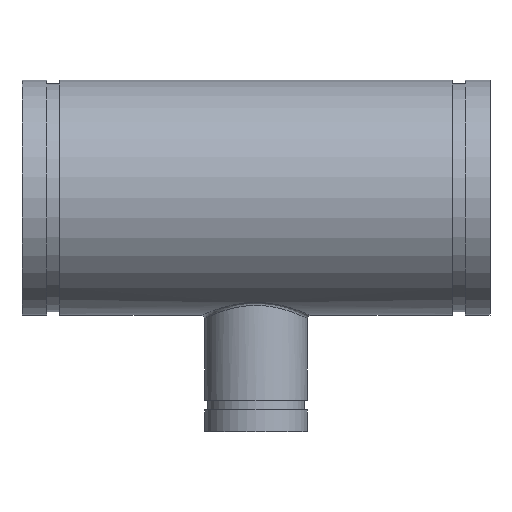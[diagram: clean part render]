
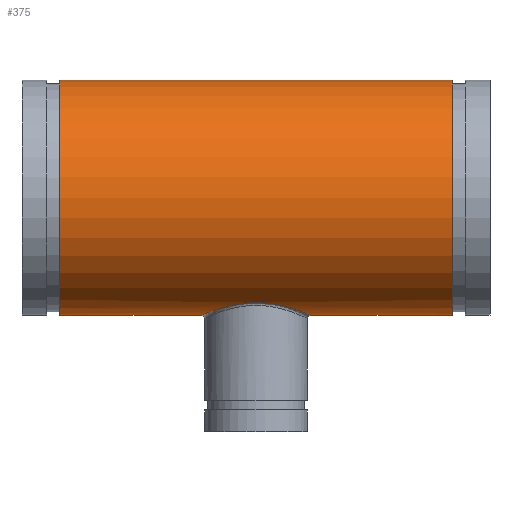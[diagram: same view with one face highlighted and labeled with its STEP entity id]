
A CAD part, top view. The second image highlights one B-rep face of the part: STEP entity #375.
In plain terms, the highlighted cylindrical face has radius 114.935 mm (diameter 229.87 mm), a full revolution.
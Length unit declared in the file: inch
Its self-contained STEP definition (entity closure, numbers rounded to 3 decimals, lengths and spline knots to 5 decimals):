
#54=FACE_BOUND('',#119,.T.);
#65=LINE('',#784,#76);
#76=VECTOR('',#483,4.525);
#87=CYLINDRICAL_SURFACE('',#415,4.525);
#98=FACE_OUTER_BOUND('',#118,.T.);
#118=EDGE_LOOP('',(#266,#267,#268,#269));
#119=EDGE_LOOP('',(#270));
#150=B_SPLINE_CURVE_WITH_KNOTS('',3,(#757,#758,#759,#760,#761,#762,#763,
#764,#765,#766,#767,#768,#769,#770,#771,#772,#773,#774,#775,#776,#777,#778,
#779),.UNSPECIFIED.,.T.,.F.,(4,1,1,1,1,1,1,1,1,1,1,1,1,1,1,1,1,1,1,1,4),
(-30.76947,-29.67056,-28.57165,-26.37383,
-24.90862,-23.44341,-21.97819,-19.78038,
-19.04777,-17.58256,-16.11734,-14.65213,
-13.18692,-10.25649,-8.79128,-7.32606,
-5.86085,-4.39564,-2.19782,-1.09891,
0.),.UNSPECIFIED.);
#154=CIRCLE('',#416,4.525);
#155=CIRCLE('',#417,4.525);
#182=VERTEX_POINT('',#726);
#185=VERTEX_POINT('',#781);
#186=VERTEX_POINT('',#783);
#219=EDGE_CURVE('',#182,#182,#150,.T.);
#220=EDGE_CURVE('',#185,#185,#154,.T.);
#221=EDGE_CURVE('',#185,#186,#65,.T.);
#222=EDGE_CURVE('',#186,#186,#155,.T.);
#266=ORIENTED_EDGE('',*,*,#220,.T.);
#267=ORIENTED_EDGE('',*,*,#221,.T.);
#268=ORIENTED_EDGE('',*,*,#222,.T.);
#269=ORIENTED_EDGE('',*,*,#221,.F.);
#270=ORIENTED_EDGE('',*,*,#219,.F.);
#375=ADVANCED_FACE('',(#98,#54),#87,.T.);
#415=AXIS2_PLACEMENT_3D('',#780,#479,#480);
#416=AXIS2_PLACEMENT_3D('',#782,#481,#482);
#417=AXIS2_PLACEMENT_3D('',#785,#484,#485);
#479=DIRECTION('center_axis',(-1.,0.,0.));
#480=DIRECTION('ref_axis',(0.,-1.,0.));
#481=DIRECTION('center_axis',(1.,0.,0.));
#482=DIRECTION('ref_axis',(0.,-1.,0.));
#483=DIRECTION('',(1.,0.,0.));
#484=DIRECTION('center_axis',(-1.,0.,0.));
#485=DIRECTION('ref_axis',(0.,-1.,0.));
#726=CARTESIAN_POINT('',(0.,-4.0348,-2.04841));
#757=CARTESIAN_POINT('Ctrl Pts',(0.,-4.0348,
-2.04841));
#758=CARTESIAN_POINT('Ctrl Pts',(0.15968,-4.0348,-2.04841));
#759=CARTESIAN_POINT('Ctrl Pts',(0.47891,-4.05315,-2.01279));
#760=CARTESIAN_POINT('Ctrl Pts',(1.0776,-4.15306,-1.80593));
#761=CARTESIAN_POINT('Ctrl Pts',(1.61349,-4.32247,-1.38834));
#762=CARTESIAN_POINT('Ctrl Pts',(1.98545,-4.47214,-0.76843));
#763=CARTESIAN_POINT('Ctrl Pts',(2.13164,-4.53684,-0.15839));
#764=CARTESIAN_POINT('Ctrl Pts',(2.07388,-4.51109,0.57514));
#765=CARTESIAN_POINT('Ctrl Pts',(1.79047,-4.38957,1.13765));
#766=CARTESIAN_POINT('Ctrl Pts',(1.36621,-4.2443,1.58085));
#767=CARTESIAN_POINT('Ctrl Pts',(0.93473,-4.12431,1.86939));
#768=CARTESIAN_POINT('Ctrl Pts',(0.32416,-4.0311,2.05607));
#769=CARTESIAN_POINT('Ctrl Pts',(-0.32418,-4.03083,2.05612));
#770=CARTESIAN_POINT('Ctrl Pts',(-1.13827,-4.15587,1.80715));
#771=CARTESIAN_POINT('Ctrl Pts',(-1.76672,-4.38023,1.23927));
#772=CARTESIAN_POINT('Ctrl Pts',(-2.08213,-4.51445,0.46994));
#773=CARTESIAN_POINT('Ctrl Pts',(-2.13159,-4.53695,-0.15817));
#774=CARTESIAN_POINT('Ctrl Pts',(-1.98547,-4.47209,-0.76857));
#775=CARTESIAN_POINT('Ctrl Pts',(-1.61348,-4.32251,-1.38824));
#776=CARTESIAN_POINT('Ctrl Pts',(-1.0776,-4.15304,-1.80598));
#777=CARTESIAN_POINT('Ctrl Pts',(-0.47891,-4.05316,-2.01277));
#778=CARTESIAN_POINT('Ctrl Pts',(-0.15968,-4.0348,-2.04841));
#779=CARTESIAN_POINT('Ctrl Pts',(0.,-4.0348,
-2.04841));
#780=CARTESIAN_POINT('Origin',(9.,0.,0.));
#781=CARTESIAN_POINT('',(-7.55,4.525,0.));
#782=CARTESIAN_POINT('Origin',(-7.55,0.,0.));
#783=CARTESIAN_POINT('',(7.55,4.525,0.));
#784=CARTESIAN_POINT('',(9.,4.525,0.));
#785=CARTESIAN_POINT('Origin',(7.55,0.,0.));
